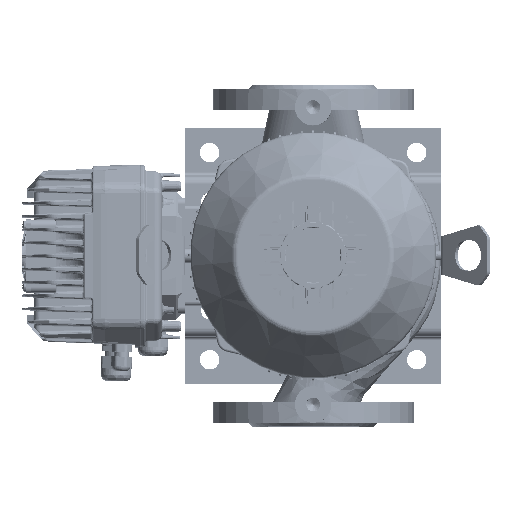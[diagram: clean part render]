
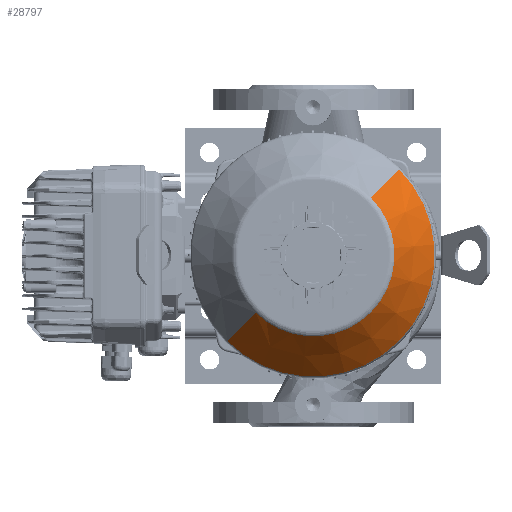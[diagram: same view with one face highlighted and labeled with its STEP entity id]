
A CAD part, top view. The second image highlights one B-rep face of the part: STEP entity #28797.
In plain terms, the highlighted conical face has half-angle 38.66 degrees and reference radius 65 mm.
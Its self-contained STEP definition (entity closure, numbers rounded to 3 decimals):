
#28797=ADVANCED_FACE('NONE',(#98061),#98062,.T.);
#98061=FACE_OUTER_BOUND('',#139780,.T.);
#98062=CONICAL_SURFACE('',#139781,65.0,0.675);
#139780=EDGE_LOOP('',(#169252,#169253,#169254,#169255));
#139781=AXIS2_PLACEMENT_3D('',#169256,#169257,#169258);
#169252=ORIENTED_EDGE('',*,*,#195764,.F.);
#169253=ORIENTED_EDGE('',*,*,#195765,.T.);
#169254=ORIENTED_EDGE('',*,*,#195766,.F.);
#169255=ORIENTED_EDGE('',*,*,#195767,.T.);
#169256=CARTESIAN_POINT('',(0.0,110.0,0.0));
#169257=DIRECTION('',(-0.0,-1.0,-0.0));
#169258=DIRECTION('',(0.0,0.0,-1.0));
#195764=EDGE_CURVE('',#283833,#283834,#283835,.T.);
#195765=EDGE_CURVE('NONE',#283833,#283836,#283837,.T.);
#195766=EDGE_CURVE('',#283838,#283836,#283839,.T.);
#195767=EDGE_CURVE('NONE',#283838,#283834,#283840,.T.);
#283833=VERTEX_POINT('',#311259);
#283834=VERTEX_POINT('NONE',#311260);
#283835=LINE('',#311261,#311262);
#283836=VERTEX_POINT('NONE',#311263);
#283837=CIRCLE('',#311264,66.801);
#283838=VERTEX_POINT('',#311265);
#283839=LINE('',#311266,#311267);
#283840=CIRCLE('',#311268,99.685);
#311259=CARTESIAN_POINT('',(0.,107.748,-66.801));
#311260=CARTESIAN_POINT('',(0.0,66.643,-99.685));
#311261=CARTESIAN_POINT('',(0.,110.0,-65.0));
#311262=VECTOR('',#321052,1.0);
#311263=CARTESIAN_POINT('',(0.,107.748,66.801));
#311264=AXIS2_PLACEMENT_3D('',#321053,#321054,#321055);
#311265=CARTESIAN_POINT('',(0.,66.643,99.685));
#311266=CARTESIAN_POINT('',(0.,110.0,65.0));
#311267=VECTOR('',#321056,1.0);
#311268=AXIS2_PLACEMENT_3D('',#321057,#321058,#321059);
#321052=DIRECTION('',(0.,-0.781,-0.625));
#321053=CARTESIAN_POINT('',(0.0,107.748,0.0));
#321054=DIRECTION('',(0.0,-1.0,0.0));
#321055=DIRECTION('',(0.0,0.0,1.0));
#321056=DIRECTION('',(0.,0.781,-0.625));
#321057=CARTESIAN_POINT('',(0.0,66.643,0.0));
#321058=DIRECTION('',(-0.0,1.0,0.0));
#321059=DIRECTION('',(0.0,0.0,1.0));
